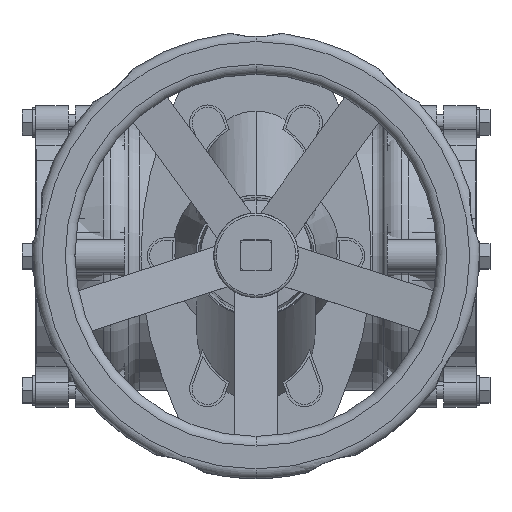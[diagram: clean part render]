
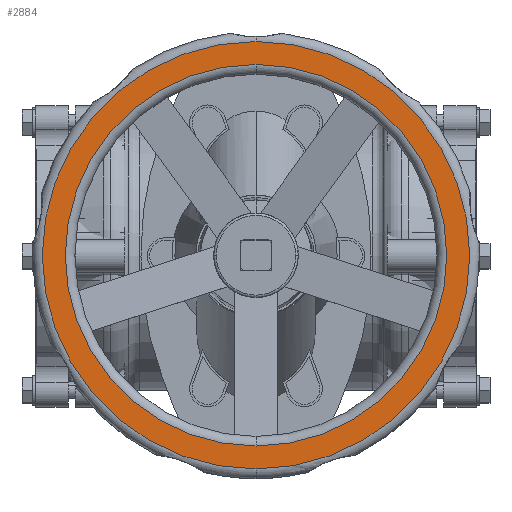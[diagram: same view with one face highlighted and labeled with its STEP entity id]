
A CAD part, top view. The second image highlights one B-rep face of the part: STEP entity #2884.
In plain terms, the highlighted planar face has unit normal (0, 0, 1).
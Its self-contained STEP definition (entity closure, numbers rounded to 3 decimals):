
#2884=ADVANCED_FACE('',(#5715,#5716),#5717,.T.);
#5715=FACE_BOUND('',#9374,.T.);
#5716=FACE_OUTER_BOUND('',#9375,.T.);
#5717=PLANE('',#9376);
#9374=EDGE_LOOP('',(#14189,#14190,#14191));
#9375=EDGE_LOOP('',(#14192,#14193,#14194));
#9376=AXIS2_PLACEMENT_3D('',#14195,#14196,#14197);
#14189=ORIENTED_EDGE('',*,*,#21201,.F.);
#14190=ORIENTED_EDGE('',*,*,#21202,.F.);
#14191=ORIENTED_EDGE('',*,*,#20640,.F.);
#14192=ORIENTED_EDGE('',*,*,#21203,.T.);
#14193=ORIENTED_EDGE('',*,*,#21204,.T.);
#14194=ORIENTED_EDGE('',*,*,#21205,.T.);
#14195=CARTESIAN_POINT('',(-115.0,0.,590.0));
#14196=DIRECTION('',(0.,0.,1.0));
#14197=DIRECTION('',(-1.0,0.,0.));
#20640=EDGE_CURVE('',#24561,#24554,#24563,.T.);
#21201=EDGE_CURVE('',#25434,#24561,#25435,.T.);
#21202=EDGE_CURVE('',#24554,#25434,#25436,.T.);
#21203=EDGE_CURVE('',#25437,#25438,#25439,.T.);
#21204=EDGE_CURVE('',#25438,#25440,#25441,.T.);
#21205=EDGE_CURVE('',#25440,#25437,#25442,.T.);
#24554=VERTEX_POINT('',#29837);
#24561=VERTEX_POINT('',#29844);
#24563=CIRCLE('',#29846,158.0);
#25434=VERTEX_POINT('',#30967);
#25435=CIRCLE('',#30968,158.0);
#25436=CIRCLE('',#30969,158.0);
#25437=VERTEX_POINT('',#30970);
#25438=VERTEX_POINT('',#30971);
#25439=CIRCLE('',#30972,177.0);
#25440=VERTEX_POINT('',#30973);
#25441=CIRCLE('',#30974,177.0);
#25442=CIRCLE('',#30975,177.0);
#29837=CARTESIAN_POINT('',(52.5,158.0,590.0));
#29844=CARTESIAN_POINT('',(52.5,-158.0,590.0));
#29846=AXIS2_PLACEMENT_3D('',#35074,#35075,#35076);
#30967=CARTESIAN_POINT('',(-105.5,0.,590.0));
#30968=AXIS2_PLACEMENT_3D('',#35825,#35826,#35827);
#30969=AXIS2_PLACEMENT_3D('',#35828,#35829,#35830);
#30970=CARTESIAN_POINT('',(-124.5,0.,590.0));
#30971=CARTESIAN_POINT('',(52.5,-177.0,590.0));
#30972=AXIS2_PLACEMENT_3D('',#35831,#35832,#35833);
#30973=CARTESIAN_POINT('',(52.5,177.0,590.0));
#30974=AXIS2_PLACEMENT_3D('',#35834,#35835,#35836);
#30975=AXIS2_PLACEMENT_3D('',#35837,#35838,#35839);
#35074=CARTESIAN_POINT('',(52.5,0.,590.0));
#35075=DIRECTION('',(0.,0.,1.0));
#35076=DIRECTION('',(-1.0,0.,0.));
#35825=CARTESIAN_POINT('',(52.5,0.,590.0));
#35826=DIRECTION('',(0.,0.,1.0));
#35827=DIRECTION('',(-1.0,0.,0.));
#35828=CARTESIAN_POINT('',(52.5,0.,590.0));
#35829=DIRECTION('',(0.,0.,1.0));
#35830=DIRECTION('',(-1.0,0.,0.));
#35831=CARTESIAN_POINT('',(52.5,0.,590.0));
#35832=DIRECTION('',(0.,0.,1.0));
#35833=DIRECTION('',(-1.0,0.,0.));
#35834=CARTESIAN_POINT('',(52.5,0.,590.0));
#35835=DIRECTION('',(0.,0.,1.0));
#35836=DIRECTION('',(-1.0,0.,0.));
#35837=CARTESIAN_POINT('',(52.5,0.,590.0));
#35838=DIRECTION('',(0.,0.,1.0));
#35839=DIRECTION('',(-1.0,0.,0.));
